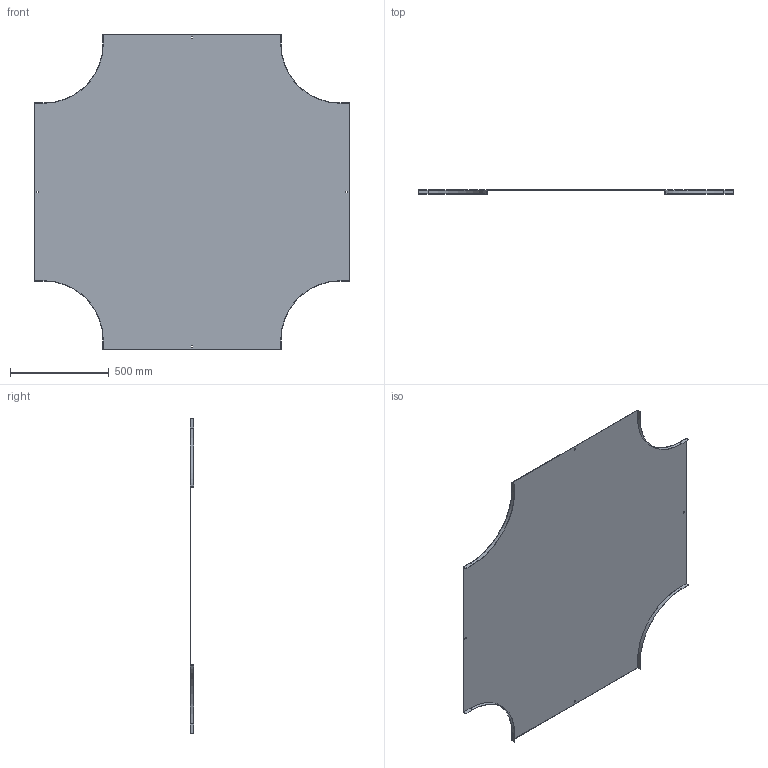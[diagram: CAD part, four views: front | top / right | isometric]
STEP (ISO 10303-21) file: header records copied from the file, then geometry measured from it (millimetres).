
FILE_DESCRIPTION (( 'STEP AP214' ), '1' );
FILE_NAME ('B2_17N3R900.step', '2025-02-21T12:09:05', ( '' ), ( '' ), 'SwSTEP 2.0', 'SolidWorks 2023', '' );
FILE_SCHEMA (( 'AUTOMOTIVE_DESIGN' ));
Length unit declared in the file: millimetre
Products named in the file (1): B2_17N3R900
Bounding box: 1600 x 20 x 1600 mm (x, y, z)
Volume: 3288941.3 mm3; surface area: 4394494.3 mm2
Topology: 1 solids, 1 shells, 50 faces, 144 edges, 96 vertices
Faces by surface type: plane 42, cylinder 8
Entity records: 1663 total; most frequent: CARTESIAN_POINT 291, ORIENTED_EDGE 288, DIRECTION 262, EDGE_CURVE 144, VECTOR 128, LINE 128, VERTEX_POINT 96, AXIS2_PLACEMENT_3D 67
